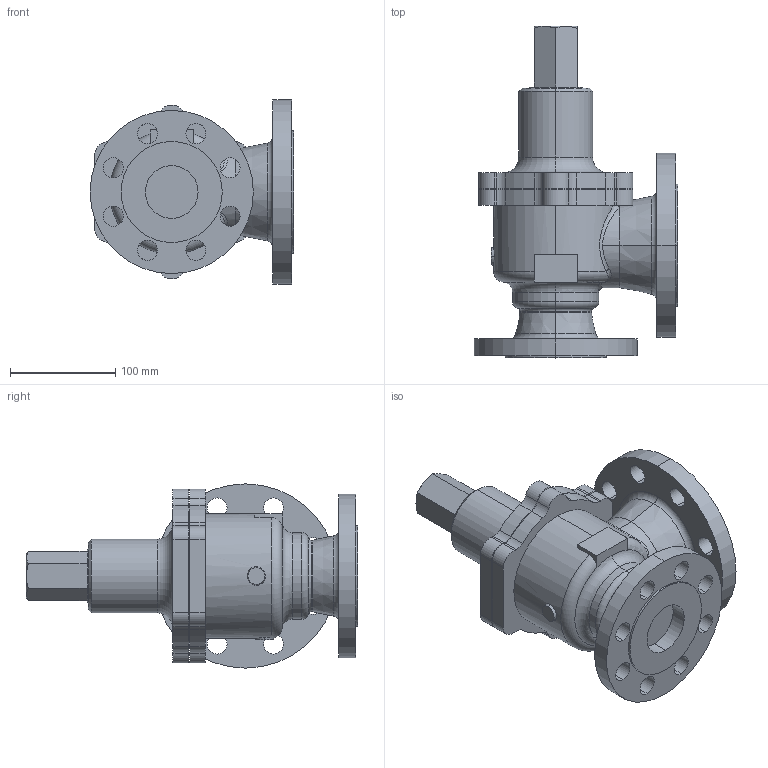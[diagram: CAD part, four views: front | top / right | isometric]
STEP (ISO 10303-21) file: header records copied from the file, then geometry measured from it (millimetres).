
FILE_DESCRIPTION (( 'STEP AP203' ), '1' );
FILE_NAME ('AL-31H 50A JIS16K.STEP', '2026-01-13T07:27:05', ( '' ), ( '' ), 'SwSTEP 2.0', 'SolidWorks 2024', '' );
FILE_SCHEMA (( 'CONFIG_CONTROL_DESIGN' ));
Length unit declared in the file: millimetre
Products named in the file (1): AL-31H 50A JIS16K
Bounding box: 193.5 x 315.3 x 175 mm (x, y, z)
Volume: 2849968.9 mm3; surface area: 231873.8 mm2
Topology: 1 solids, 1 shells, 170 faces, 440 edges, 284 vertices
Faces by surface type: cylinder 106, plane 33, torus 14, cone 12, bspline 5
Entity records: 6667 total; most frequent: CARTESIAN_POINT 2218, DIRECTION 990, ORIENTED_EDGE 880, EDGE_CURVE 440, AXIS2_PLACEMENT_3D 419, VERTEX_POINT 284, CIRCLE 253, EDGE_LOOP 214
